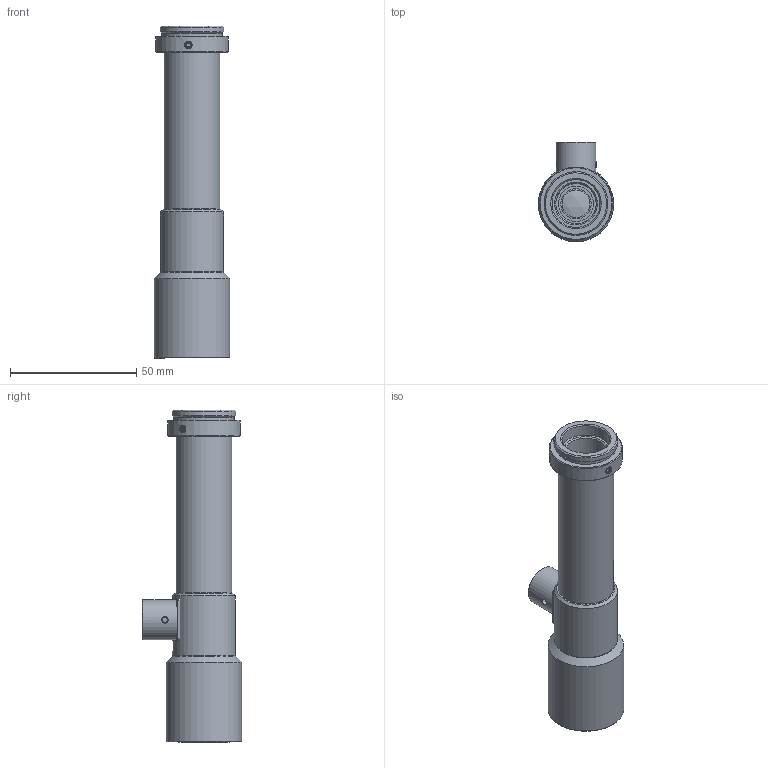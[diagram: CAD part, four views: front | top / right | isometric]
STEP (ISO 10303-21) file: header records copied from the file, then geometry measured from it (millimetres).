
FILE_DESCRIPTION(('STEP AP214'),'1');
FILE_NAME('RTK-2F-M110.stp','2026-08-03T02:36:53',(' '),(' '),'Spatial InterOp 3D',' ',' ');
FILE_SCHEMA(('AUTOMOTIVE_DESIGN { 1 0 10303 214 1 1 1 1 }'));
Length unit declared in the file: metre
Products named in the file (2): RTK-2F-M110; Compoent1
Assembly tree (1 placements, depth 2):
  RTK-2F-M110
    Compoent1
Bounding box: 30 x 39.5 x 131.72 mm (x, y, z)
Volume: 34734.1 mm3; surface area: 23567.6 mm2
Topology: 1 solids, 11 shells, 384 faces, 911 edges, 585 vertices
Faces by surface type: plane 186, cone 110, cylinder 71, torus 8, sphere 6, bspline 3
Full cylindrical faces by diameter (mm): 1.7 x8, 1.8 x4, 2.5 x8, 6.5 x1, 8 x1, 9 x1, 11 x1, 12 x1, 14 x1, 14.2 x1, 14.8 x1, 15.8 x1, 16 x1, 17.2 x1, 17.4 x1, 18 x1, 18.4 x1, 19 x2, 19.02 x1, 19.2 x1, 20.2 x1, 21 x1, 21.8 x1, 22 x4, 22.5 x1, 24 x3, 24.12 x1, 25 x1, 25.32 x1, 27 x2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
Entity records: 13795 total; most frequent: CARTESIAN_POINT 2458, DIRECTION 1784, ORIENTED_EDGE 1474, AXIS2_PLACEMENT_3D 755, EDGE_CURVE 737, EDGE_LOOP 554, VERTEX_POINT 537, FACE_OUTER_BOUND 452
